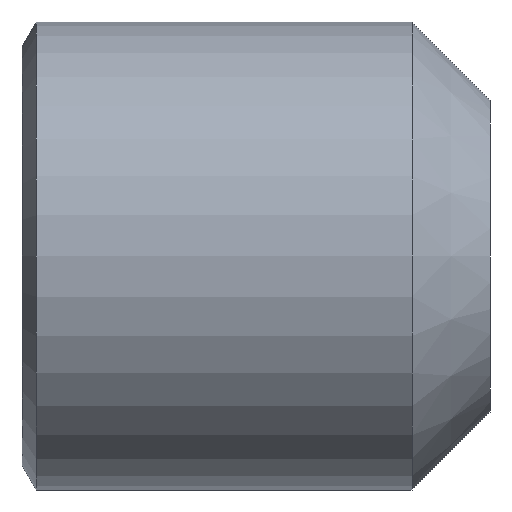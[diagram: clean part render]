
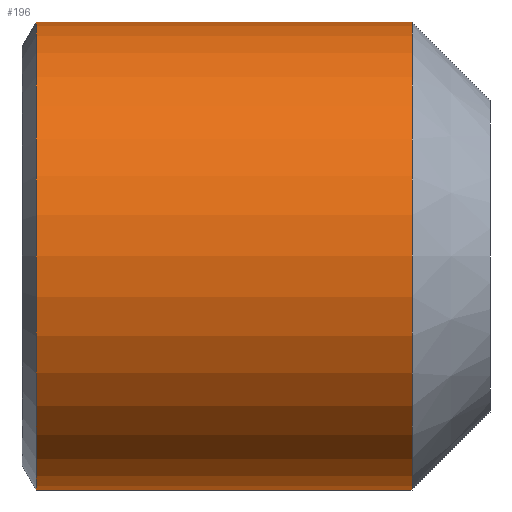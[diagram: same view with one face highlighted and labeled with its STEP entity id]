
A CAD part, left-side view. The second image highlights one B-rep face of the part: STEP entity #196.
In plain terms, the highlighted cylindrical face has radius 3 mm (diameter 6 mm), a full revolution.
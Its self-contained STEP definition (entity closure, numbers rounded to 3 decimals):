
#31=CYLINDRICAL_SURFACE('',#230,3.);
#33=FACE_OUTER_BOUND('',#45,.T.);
#45=EDGE_LOOP('',(#142,#143,#144,#145));
#58=LINE('',#303,#74);
#74=VECTOR('',#256,3.);
#90=CIRCLE('',#229,3.);
#91=CIRCLE('',#231,3.);
#94=VERTEX_POINT('',#297);
#95=VERTEX_POINT('',#301);
#113=EDGE_CURVE('',#94,#94,#90,.T.);
#114=EDGE_CURVE('',#95,#95,#91,.T.);
#115=EDGE_CURVE('',#95,#94,#58,.T.);
#142=ORIENTED_EDGE('',*,*,#114,.F.);
#143=ORIENTED_EDGE('',*,*,#115,.T.);
#144=ORIENTED_EDGE('',*,*,#113,.F.);
#145=ORIENTED_EDGE('',*,*,#115,.F.);
#196=ADVANCED_FACE('',(#33),#31,.T.);
#229=AXIS2_PLACEMENT_3D('',#299,#250,#251);
#230=AXIS2_PLACEMENT_3D('',#300,#252,#253);
#231=AXIS2_PLACEMENT_3D('',#302,#254,#255);
#250=DIRECTION('center_axis',(0.,-1.,0.));
#251=DIRECTION('ref_axis',(1.,0.,0.));
#252=DIRECTION('center_axis',(0.,1.,0.));
#253=DIRECTION('ref_axis',(1.,0.,0.));
#254=DIRECTION('center_axis',(0.,1.,0.));
#255=DIRECTION('ref_axis',(1.,0.,0.));
#256=DIRECTION('',(0.,-1.,0.));
#297=CARTESIAN_POINT('',(-3.,1.,0.));
#299=CARTESIAN_POINT('Origin',(0.,1.,0.));
#300=CARTESIAN_POINT('Origin',(0.,0.,0.));
#301=CARTESIAN_POINT('',(-3.,5.82,0.));
#302=CARTESIAN_POINT('Origin',(0.,5.82,0.));
#303=CARTESIAN_POINT('',(-3.,0.,0.));
